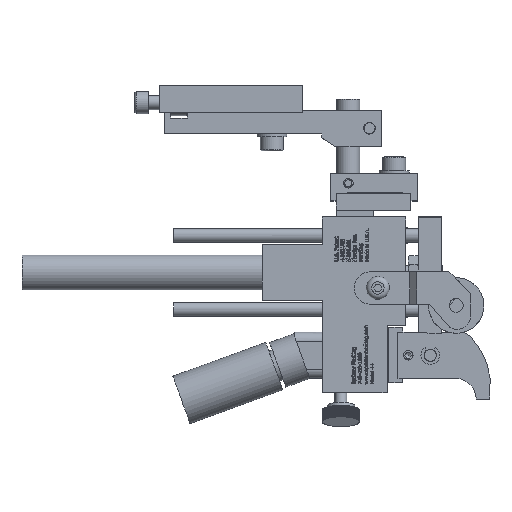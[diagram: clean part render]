
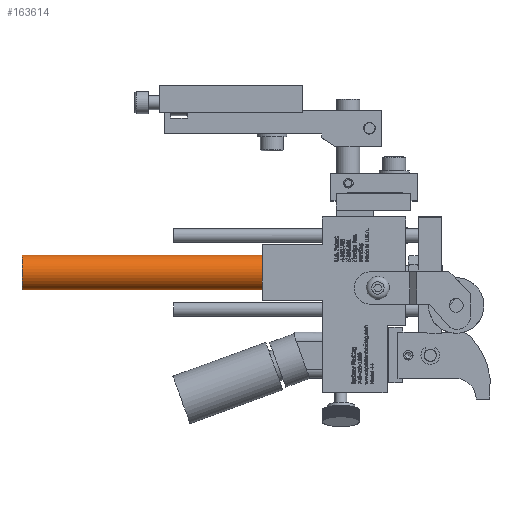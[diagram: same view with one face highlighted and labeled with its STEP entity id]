
A CAD part, top view. The second image highlights one B-rep face of the part: STEP entity #163614.
In plain terms, the highlighted cylindrical face has radius 5.969 mm (diameter 11.938 mm), a full revolution.
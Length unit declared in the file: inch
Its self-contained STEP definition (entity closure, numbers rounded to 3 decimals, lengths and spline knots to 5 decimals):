
#163332=CARTESIAN_POINT('',(-1.4995,0.8125,0.61));
#163333=VERTEX_POINT('',#163332);
#163334=CARTESIAN_POINT('',(-1.4995,0.8125,0.375));
#163335=DIRECTION('',(1.0,0.0,0.0));
#163336=DIRECTION('',(0.0,0.0,-1.0));
#163337=AXIS2_PLACEMENT_3D('',#163334,#163335,#163336);
#163338=CIRCLE('',#163337,0.235);
#163339=EDGE_CURVE('',#163333,#163333,#163338,.T.);
#163580=CARTESIAN_POINT('',(-4.7495,0.8125,0.61));
#163581=VERTEX_POINT('',#163580);
#163582=CARTESIAN_POINT('',(-4.7495,0.8125,0.375));
#163583=DIRECTION('',(1.0,0.0,0.0));
#163584=DIRECTION('',(0.0,0.0,-1.0));
#163585=AXIS2_PLACEMENT_3D('',#163582,#163583,#163584);
#163586=CIRCLE('',#163585,0.235);
#163587=EDGE_CURVE('',#163581,#163581,#163586,.T.);
#163603=CARTESIAN_POINT('',(-1.4995,0.8125,0.375));
#163604=DIRECTION('',(-1.0,0.,0.));
#163605=DIRECTION('',(0.0,0.0,-1.0));
#163606=AXIS2_PLACEMENT_3D('',#163603,#163604,#163605);
#163607=CYLINDRICAL_SURFACE('',#163606,0.235);
#163608=ORIENTED_EDGE('',*,*,#163587,.T.);
#163609=EDGE_LOOP('',(#163608));
#163610=FACE_OUTER_BOUND('',#163609,.T.);
#163611=ORIENTED_EDGE('',*,*,#163339,.F.);
#163612=EDGE_LOOP('',(#163611));
#163613=FACE_BOUND('',#163612,.T.);
#163614=ADVANCED_FACE('',(#163610,#163613),#163607,.T.);
